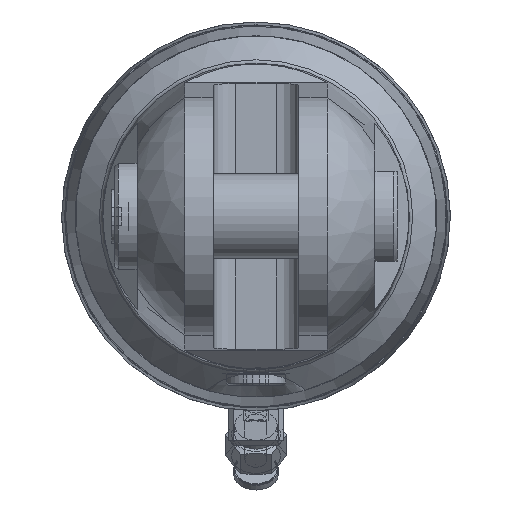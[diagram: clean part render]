
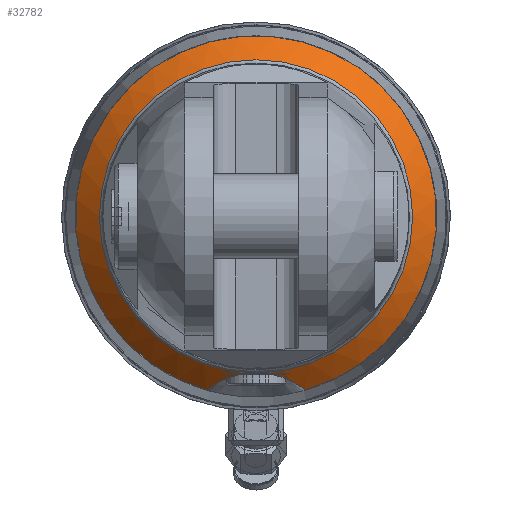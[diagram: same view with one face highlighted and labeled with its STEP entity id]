
A CAD part, left-side view. The second image highlights one B-rep face of the part: STEP entity #32782.
In plain terms, the highlighted conical face has half-angle 45.366 degrees and reference radius 75.632 mm.
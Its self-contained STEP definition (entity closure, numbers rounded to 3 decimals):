
#1789=B_SPLINE_CURVE_WITH_KNOTS('',3,(#58883,#58884,#58885,#58886,#58887,
#58888,#58889,#58890,#58891,#58892,#58893,#58894),.UNSPECIFIED.,.F.,.F.,
(4,2,2,2,2,4),(2.233,3.275,3.655,4.035,
4.415,4.795),.UNSPECIFIED.);
#1792=B_SPLINE_CURVE_WITH_KNOTS('',3,(#58938,#58939,#58940,#58941,#58942,
#58943,#58944,#58945,#58946,#58947,#58948,#58949),.UNSPECIFIED.,.F.,.F.,
(4,2,2,2,2,4),(4.795,5.175,5.555,5.934,
6.314,7.356),.UNSPECIFIED.);
#2302=CIRCLE('',#34101,81.);
#2303=CIRCLE('',#34103,70.263);
#2304=CIRCLE('',#34104,70.263);
#2519=CONICAL_SURFACE('',#34102,75.631,0.792);
#4021=FACE_OUTER_BOUND('',#5859,.T.);
#5859=EDGE_LOOP('',(#27465,#27466,#27467,#27468,#27469));
#14611=VERTEX_POINT('',#58870);
#14615=VERTEX_POINT('',#58882);
#14617=VERTEX_POINT('',#58917);
#14622=VERTEX_POINT('',#59026);
#18956=EDGE_CURVE('',#14615,#14611,#1789,.T.);
#18959=EDGE_CURVE('',#14611,#14617,#1792,.T.);
#18965=EDGE_CURVE('',#14615,#14617,#2302,.T.);
#18967=EDGE_CURVE('',#14611,#14622,#2303,.T.);
#18968=EDGE_CURVE('',#14622,#14611,#2304,.T.);
#27465=ORIENTED_EDGE('',*,*,#18959,.T.);
#27466=ORIENTED_EDGE('',*,*,#18965,.F.);
#27467=ORIENTED_EDGE('',*,*,#18956,.T.);
#27468=ORIENTED_EDGE('',*,*,#18967,.T.);
#27469=ORIENTED_EDGE('',*,*,#18968,.T.);
#32782=ADVANCED_FACE('',(#4021),#2519,.T.);
#34101=AXIS2_PLACEMENT_3D('',#58993,#39296,#39297);
#34102=AXIS2_PLACEMENT_3D('',#59025,#39298,#39299);
#34103=AXIS2_PLACEMENT_3D('',#59027,#39300,#39301);
#34104=AXIS2_PLACEMENT_3D('',#59028,#39302,#39303);
#39296=DIRECTION('center_axis',(1.,0.,0.));
#39297=DIRECTION('ref_axis',(0.,0.,
1.));
#39298=DIRECTION('center_axis',(1.,0.,0.));
#39299=DIRECTION('ref_axis',(0.,0.,
1.));
#39300=DIRECTION('center_axis',(1.,0.,0.));
#39301=DIRECTION('ref_axis',(0.,0.,
1.));
#39302=DIRECTION('center_axis',(1.,0.,0.));
#39303=DIRECTION('ref_axis',(0.,0.,
1.));
#58870=CARTESIAN_POINT('',(-4112.961,0.,-70.263));
#58882=CARTESIAN_POINT('',(-4102.36,22.203,-77.898));
#58883=CARTESIAN_POINT('Ctrl Pts',(-4102.36,22.203,-77.898));
#58884=CARTESIAN_POINT('Ctrl Pts',(-4104.659,19.938,-76.122));
#58885=CARTESIAN_POINT('Ctrl Pts',(-4106.763,17.441,-74.567));
#58886=CARTESIAN_POINT('Ctrl Pts',(-4109.117,13.687,-72.887));
#58887=CARTESIAN_POINT('Ctrl Pts',(-4109.73,12.594,-72.457));
#58888=CARTESIAN_POINT('Ctrl Pts',(-4110.838,10.27,-71.689));
#58889=CARTESIAN_POINT('Ctrl Pts',(-4111.333,9.04,-71.352));
#58890=CARTESIAN_POINT('Ctrl Pts',(-4112.139,6.503,-70.807));
#58891=CARTESIAN_POINT('Ctrl Pts',(-4112.451,5.195,-70.6));
#58892=CARTESIAN_POINT('Ctrl Pts',(-4112.862,2.576,-70.328));
#58893=CARTESIAN_POINT('Ctrl Pts',(-4112.961,1.266,-70.263));
#58894=CARTESIAN_POINT('Ctrl Pts',(-4112.961,0.,
-70.263));
#58917=CARTESIAN_POINT('',(-4102.36,-22.203,-77.898));
#58938=CARTESIAN_POINT('Ctrl Pts',(-4112.961,0.,
-70.263));
#58939=CARTESIAN_POINT('Ctrl Pts',(-4112.961,-1.266,
-70.263));
#58940=CARTESIAN_POINT('Ctrl Pts',(-4112.862,-2.576,
-70.328));
#58941=CARTESIAN_POINT('Ctrl Pts',(-4112.451,-5.195,
-70.6));
#58942=CARTESIAN_POINT('Ctrl Pts',(-4112.139,-6.503,
-70.807));
#58943=CARTESIAN_POINT('Ctrl Pts',(-4111.333,-9.04,-71.352));
#58944=CARTESIAN_POINT('Ctrl Pts',(-4110.838,-10.27,
-71.689));
#58945=CARTESIAN_POINT('Ctrl Pts',(-4109.73,-12.594,
-72.457));
#58946=CARTESIAN_POINT('Ctrl Pts',(-4109.117,-13.687,
-72.887));
#58947=CARTESIAN_POINT('Ctrl Pts',(-4106.763,-17.441,
-74.567));
#58948=CARTESIAN_POINT('Ctrl Pts',(-4104.659,-19.938,
-76.122));
#58949=CARTESIAN_POINT('Ctrl Pts',(-4102.36,-22.203,-77.898));
#58993=CARTESIAN_POINT('Origin',(-4102.36,0.,0.));
#59025=CARTESIAN_POINT('Origin',(-4107.66,0.,
0.));
#59026=CARTESIAN_POINT('',(-4112.961,70.263,0.));
#59027=CARTESIAN_POINT('Origin',(-4112.961,0.,
0.));
#59028=CARTESIAN_POINT('Origin',(-4112.961,0.,
0.));
